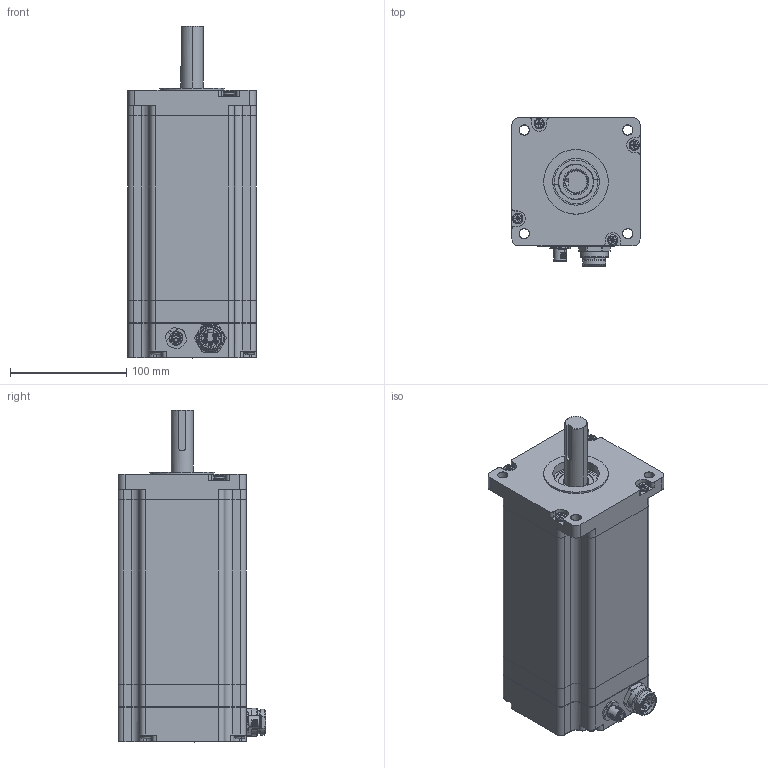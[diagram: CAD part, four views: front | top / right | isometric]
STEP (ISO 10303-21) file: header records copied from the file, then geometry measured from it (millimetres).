
FILE_DESCRIPTION (( 'STEP AP214' ), '1' );
FILE_NAME ('M110SH201-TO0512L05C.STEP', '2025-05-24T08:55:00', ( '' ), ( '' ), 'SwSTEP 2.0', 'SolidWorks 2019', '' );
FILE_SCHEMA (( 'AUTOMOTIVE_DESIGN' ));
Length unit declared in the file: millimetre
Products named in the file (1): M110SH201-TO0512L05C
Bounding box: 110 x 127 x 285 mm (x, y, z)
Volume: 980722 mm3; surface area: 331154.9 mm2
Topology: 45 solids, 45 shells, 1977 faces, 5159 edges, 3305 vertices
Faces by surface type: plane 874, cylinder 497, bspline 379, cone 137, torus 90
Entity records: 98678 total; most frequent: CARTESIAN_POINT 30121, ORIENTED_EDGE 10128, DIRECTION 8777, EDGE_CURVE 5064, VERTEX_POINT 3305, AXIS2_PLACEMENT_3D 3070, LINE 2637, VECTOR 2637
